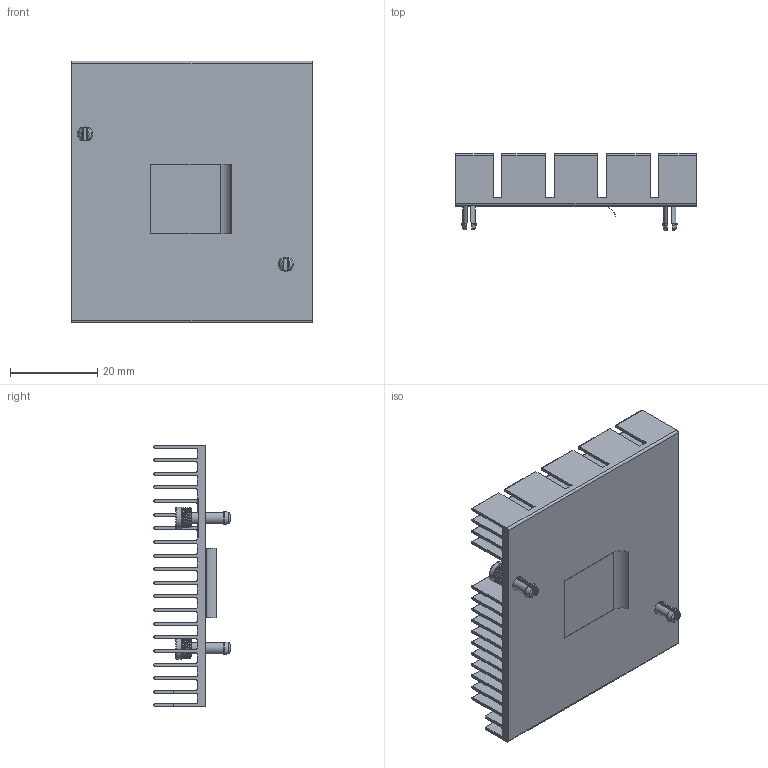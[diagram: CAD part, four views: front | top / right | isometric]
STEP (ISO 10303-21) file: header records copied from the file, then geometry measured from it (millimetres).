
FILE_DESCRIPTION (( 'STEP AP214' ), '1' );
FILE_NAME ('PCI1155_A.STEP', '2023-04-17T22:04:42', ( '' ), ( '' ), 'SwSTEP 2.0', 'SolidWorks 2020', '' );
FILE_SCHEMA (( 'AUTOMOTIVE_DESIGN' ));
Length unit declared in the file: millimetre
Products named in the file (1): PCI1155_A
Bounding box: 55 x 17.42 x 60 mm (x, y, z)
Volume: 12725.8 mm3; surface area: 26429.1 mm2
Topology: 6 solids, 6 shells, 858 faces, 2506 edges, 1664 vertices
Faces by surface type: plane 443, cylinder 391, bspline 12, torus 8, cone 4
Entity records: 41270 total; most frequent: CARTESIAN_POINT 8369, ORIENTED_EDGE 5012, DIRECTION 4960, EDGE_CURVE 2506, VERTEX_POINT 1664, AXIS2_PLACEMENT_3D 1664, LINE 1632, VECTOR 1632
